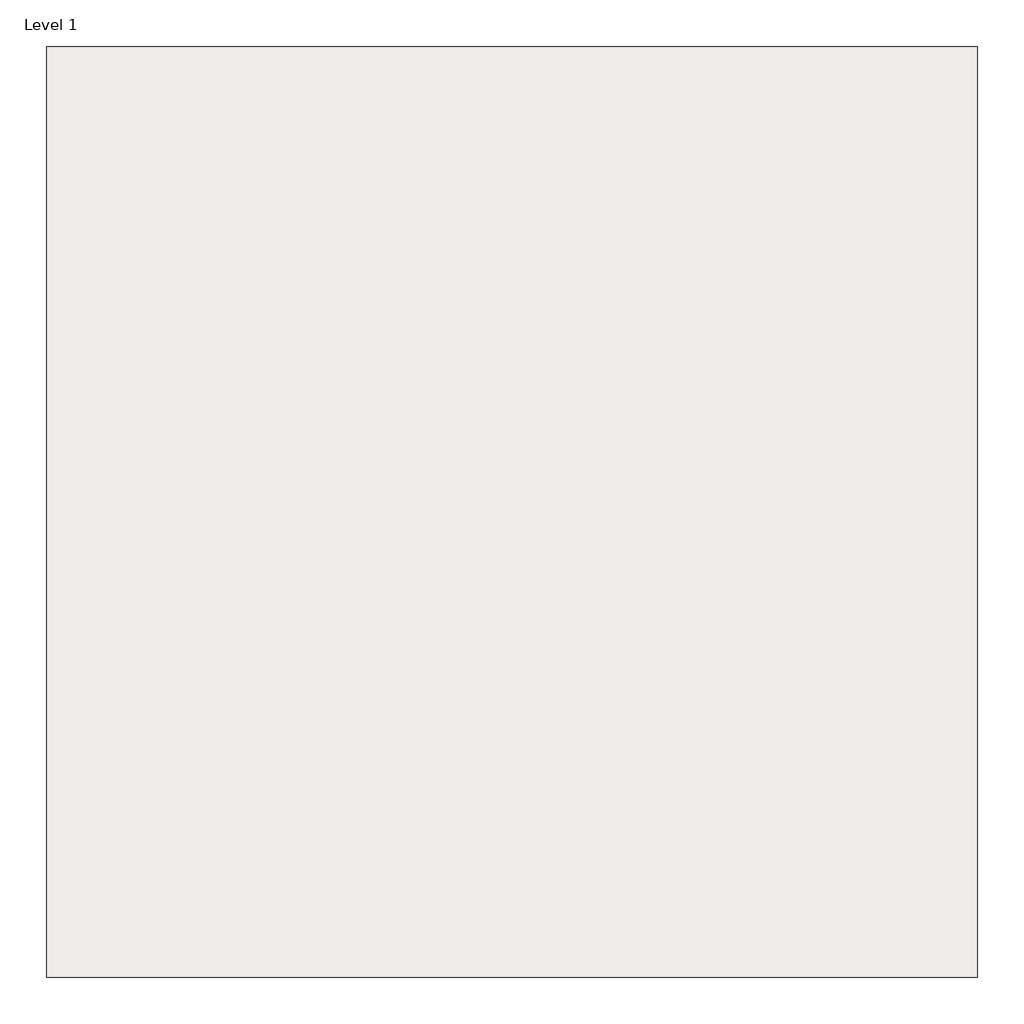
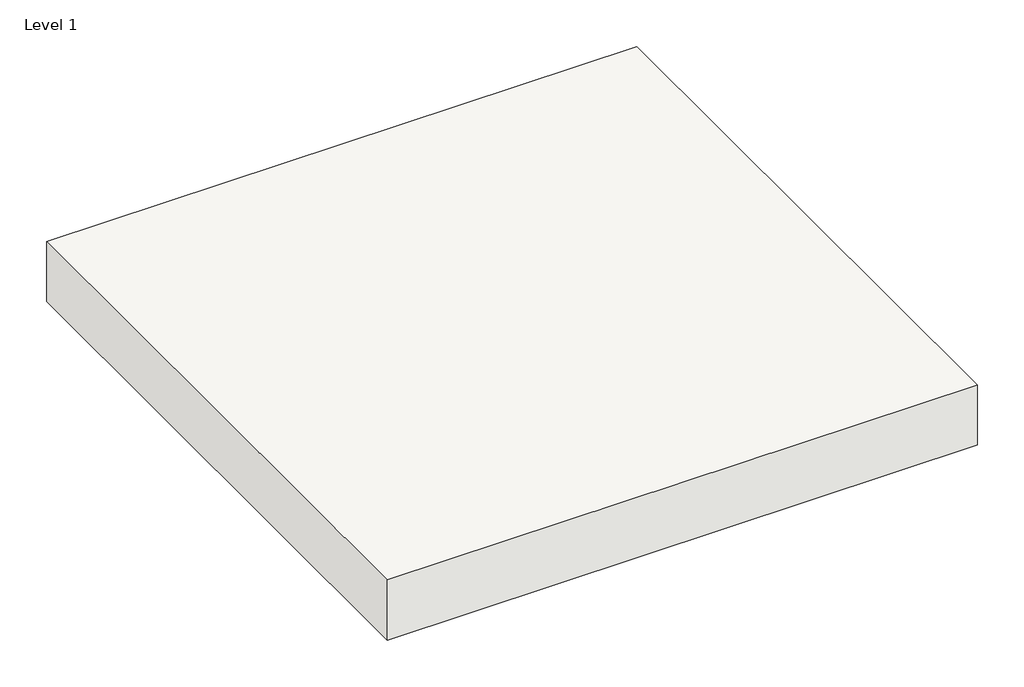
# One storey: 1 slab.
"""IFC4 building model written with IfcOpenShell, lengths in millimetres."""

from ifc_helpers import new_model, si_unit, frame, origin, place, context, project, spatial, polyline, outline, extrude, element, save

model = new_model("IFC4")

# Units and contexts
model_context = context("Model", 3, world=origin())
ifc_project = project(units=[si_unit("LENGTHUNIT", "METRE", prefix="MILLI")], contexts=[model_context])

# Site, building, storey
site = spatial("IfcSite", under=ifc_project)
building = spatial("IfcBuilding", under=site)
storey = spatial("IfcBuildingStorey", under=building, Name="Level 1", Elevation=0.0)

# Slab
placement = place(None, origin())
element("IfcSlab", 1, ObjectType="RIGIPS - 7.51.05 - 55dB", at=placement, inside=storey, context=model_context, shape_type="SweptSolid", body=[
    extrude(outline(polyline([(-1500.0, 1500.0), (1500.0, 1500.0), (1500.0, -1500.0), (-1500.0, -1500.0), (-1500.0, 1500.0)])), frame((0.0, 0.0, -322.5), z_axis=(0.0, 0.0, 1.0), x_axis=(1.0, 0.0, 0.0)), (0.0, 0.0, 1.0), 322.5),
])

save(model, "model.ifc")
